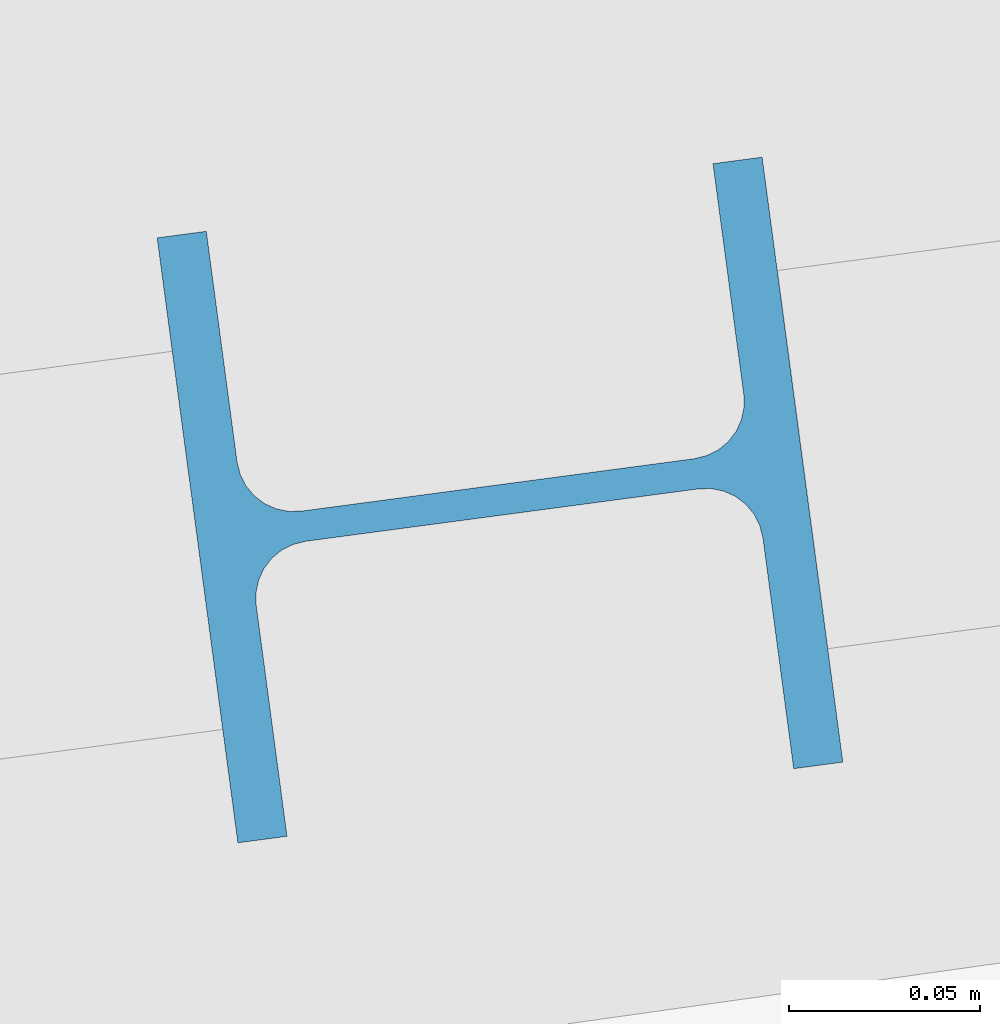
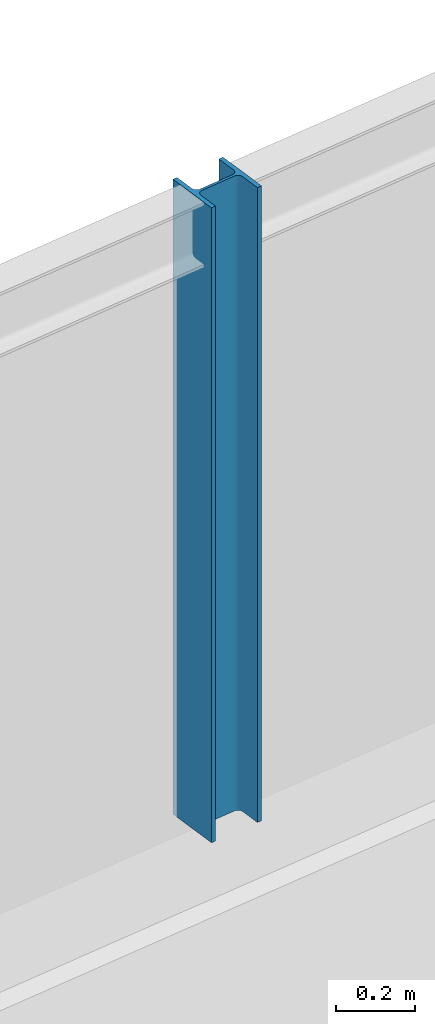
# One storey, part 29 of 82: 1 column.
"""IFC2X3 building model written with IfcOpenShell, lengths in millimetres."""

from ifc_helpers import new_model, si_unit, frame, frame_2d, origin_with_axes, place, context, subcontext, project, spatial, i_section, extrude, material, type_object, element, save


model = new_model("IFC2X3")

# Units and contexts
model_context = context("Model", 3, precision=1e-05, world=origin_with_axes())
body_context = subcontext(model_context, "Body", "Model", "MODEL_VIEW")
ifc_project = project(units=[si_unit("LENGTHUNIT", "METRE", prefix="MILLI"), si_unit("AREAUNIT", "SQUARE_METRE"), si_unit("VOLUMEUNIT", "CUBIC_METRE"), si_unit("MASSUNIT", "GRAM", prefix="KILO"), si_unit("TIMEUNIT", "SECOND"), si_unit("PLANEANGLEUNIT", "RADIAN"), si_unit("SOLIDANGLEUNIT", "STERADIAN"), si_unit("THERMODYNAMICTEMPERATUREUNIT", "DEGREE_CELSIUS"), si_unit("LUMINOUSINTENSITYUNIT", "LUMEN")], contexts=[model_context])

# Site, building, storey
site_placement = place(None, origin_with_axes())
site = spatial("IfcSite", under=ifc_project, at=site_placement, Name="Undefined", CompositionType="ELEMENT")
building_placement = place(site_placement, origin_with_axes())
building = spatial("IfcBuilding", under=site, at=building_placement, Name="Undefined", CompositionType="ELEMENT")
storey_placement = place(building_placement, origin_with_axes())
storey = spatial("IfcBuildingStorey", under=building, at=storey_placement, Name="Undefined", CompositionType="ELEMENT", Elevation=0.0)

# Column
ifc_material = material(Name="STEEL/S275JR")
column_type = type_object("IfcColumnType", Name="HEB160", PredefinedType="NOTDEFINED")
column_placement = place(storey_placement, frame((21709.8163276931, 29743.3048968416, 17160.0), z_axis=(0.0, 0.0, 1.0), x_axis=(1.0, 0.0, 0.0)))
element("IfcColumn", 1, at=column_placement, inside=storey, type_object=column_type, material=ifc_material, Name="POTEAU", ObjectType="HEB160", context=body_context, shape_type="SweptSolid", body=[
    extrude(i_section(OverallWidth=160.0, OverallDepth=160.0, WebThickness=8.0, FlangeThickness=13.0, FilletRadius=15.0, at=frame_2d((5.17284206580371e-08, 4.49290382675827e-10), x_axis=(1.0, 0.0))), frame((0.0, 0.0, 1965.0), z_axis=(0.0, -6.50000002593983e-08, -0.999999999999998), x_axis=(0.132256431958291, -0.991215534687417, 0.0)), (0.0, 0.0, 1.0), 1965.0),
])

save(model, "model.ifc")
